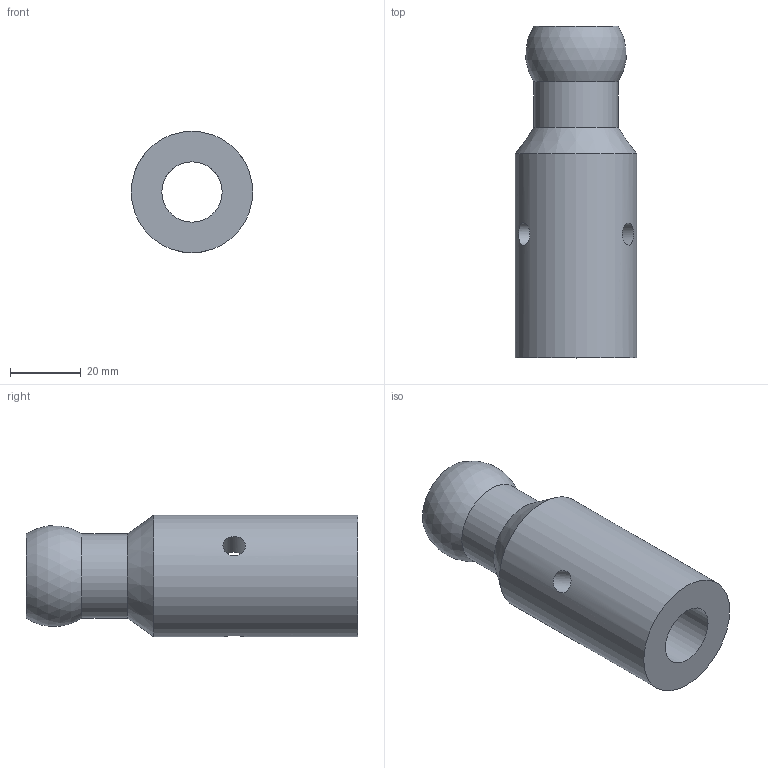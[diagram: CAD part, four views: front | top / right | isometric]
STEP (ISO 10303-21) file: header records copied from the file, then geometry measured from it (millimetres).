
FILE_DESCRIPTION(/* description */ ('Unknown'),/* implementation_level */ '2;1');
FILE_NAME(/* name */ 'SLM-8',/* time_stamp */ '2016-10-03T08:52:28-04:00',/* author */ ('Unknown'),/* organization */ ('Unknown'),/* preprocessor_version */ 'ST-DEVELOPER v16.7',/* originating_system */ 'DEX',/* authorisation */ $);
FILE_SCHEMA (('AUTOMOTIVE_DESIGN {1 0 10303 214 3 1 1}'));
Length unit declared in the file: millimetre
Products named in the file (1): SLM-8
Bounding box: 34.29 x 93.66 x 34.29 mm (x, y, z)
Volume: 50811.6 mm3; surface area: 15654.9 mm2
Topology: 1 solids, 1 shells, 11 faces, 27 edges, 16 vertices
Faces by surface type: cylinder 7, plane 2, sphere 1, cone 1
Full cylindrical faces by diameter (mm): 6.35 x3, 17 x2, 23.754 x1, 34.29 x1
Entity records: 1476 total; most frequent: CARTESIAN_POINT 1163, DIRECTION 40, ORIENTED_EDGE 28, EDGE_LOOP 28, FACE_BOUND 28, AXIS2_PLACEMENT_3D 20, EDGE_CURVE 14, VERTEX_POINT 14
